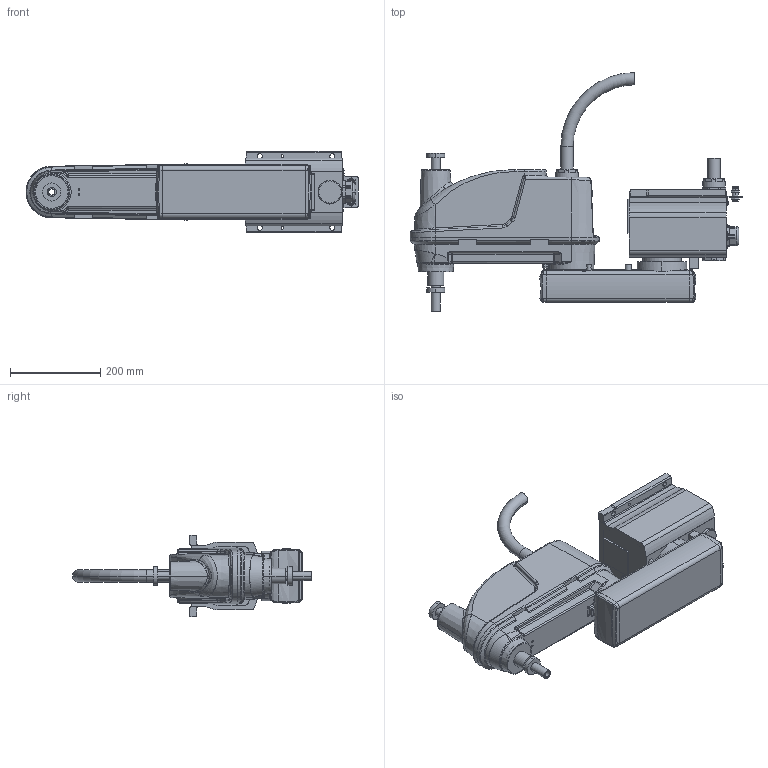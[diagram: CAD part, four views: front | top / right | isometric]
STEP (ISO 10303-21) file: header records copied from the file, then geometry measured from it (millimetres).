
FILE_DESCRIPTION((''),'2;1');
FILE_NAME('THL500-T_3D_ASM','2024-06-12T11:00:17',('15575'),(''),'CREO PARAMETRIC BY PTC INC, 2020454','CREO PARAMETRIC BY PTC INC, 2020454','');
FILE_SCHEMA(('AUTOMOTIVE_DESIGN { 1 0 10303 214 1 1 1 1 }'));
Products named in the file (5): THL567-T_BASE; THL500-T_1ST_ARM; THL500-T_BALL_SCREW; THL500-T_2ND_ARM1; THL500-T_3D_ASM
Assembly tree (4 placements, depth 2):
  THL500-T_3D_ASM
    THL567-T_BASE
    THL500-T_1ST_ARM
    THL500-T_BALL_SCREW
    THL500-T_2ND_ARM1
Bounding box: 733.99 x 528 x 180 mm (x, y, z)
Volume: 5450740 mm3; surface area: 1173682 mm2
Topology: 5 solids, 17 shells, 1544 faces, 3719 edges, 2366 vertices
Faces by surface type: plane 645, cylinder 560, bspline 170, cone 77, torus 66, sphere 20, revolution 6
Entity records: 66691 total; most frequent: CARTESIAN_POINT 22421, ORIENTED_EDGE 7378, DIRECTION 7187, EDGE_CURVE 3695, AXIS2_PLACEMENT_3D 2674, VERTEX_POINT 2342, PRESENTATION_STYLE_ASSIGNMENT 1833, VECTOR 1818
